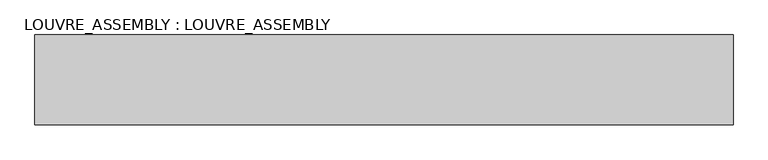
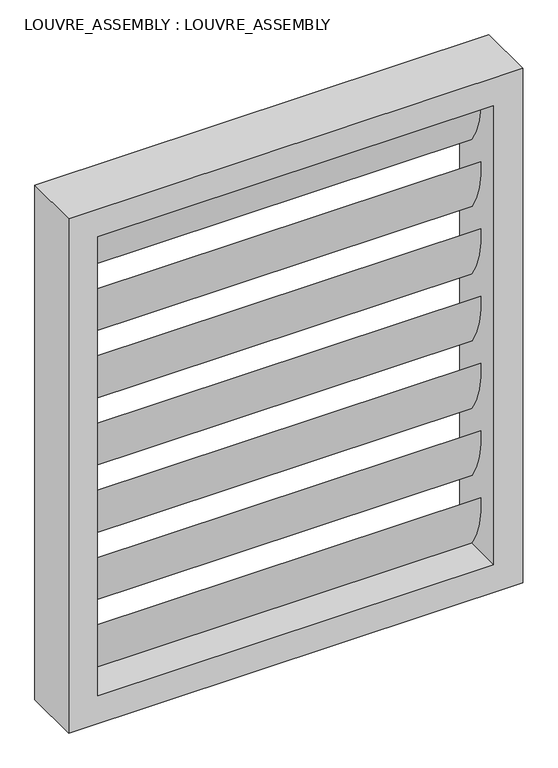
"""IFC4 building model written with IfcOpenShell, lengths in millimetres: plate geometry, LOUVRE_ASSEMBLY : LOUVRE_ASSEMBLY."""

from ifc_helpers import new_model, si_unit, point, frame, frame_2d, origin, place, context, project, spatial, circle_curve, trimmed, segment, composite_curve, outline, extrude, faceted_brep, source, transform, mapped, element, save


def louvre_assembly_louvre_assembly_8bc7d318(model_context):
    return source(origin(), model_context, "Body", "SolidModel", [
        extrude(outline(composite_curve([segment(trimmed(circle_curve(frame_2d((202.8444235, 386.8519995)), 222.9910312), [point((19.4114284, 260.055563))], [point((-19.4114284, 404.944437))], False, "CARTESIAN"), True, "CONTINUOUS"), segment(trimmed(circle_curve(frame_2d((-202.8444235, 278.1480005)), 222.9910312), [point((-19.4114284, 404.944437))], [point((19.4114284, 260.055563))], False, "CARTESIAN"), True, "CONTINUOUS")], self_intersect=False)), frame((-507.3428515, 0.0, 0.0), z_axis=(1.0, 0.0, 0.0), x_axis=(0.0, 1.0, 0.0)), (0.0, 0.0, 1.0), 1014.685703),
        extrude(outline(composite_curve([segment(trimmed(circle_curve(frame_2d((202.8444235, 569.3519995)), 222.9910312), [point((19.4114284, 442.555563))], [point((-19.4114284, 587.444437))], False, "CARTESIAN"), True, "CONTINUOUS"), segment(trimmed(circle_curve(frame_2d((-202.8444235, 460.6480005)), 222.9910312), [point((-19.4114284, 587.444437))], [point((19.4114284, 442.555563))], False, "CARTESIAN"), True, "CONTINUOUS")], self_intersect=False)), frame((-507.3428515, 0.0, 0.0), z_axis=(1.0, 0.0, 0.0), x_axis=(0.0, 1.0, 0.0)), (0.0, 0.0, 1.0), 1014.685703),
        extrude(outline(composite_curve([segment(trimmed(circle_curve(frame_2d((202.8444235, 751.8519995)), 222.9910312), [point((19.4114284, 625.055563))], [point((-19.4114284, 769.944437))], False, "CARTESIAN"), True, "CONTINUOUS"), segment(trimmed(circle_curve(frame_2d((-202.8444235, 643.1480005)), 222.9910312), [point((-19.4114284, 769.944437))], [point((19.4114284, 625.055563))], False, "CARTESIAN"), True, "CONTINUOUS")], self_intersect=False)), frame((-507.3428515, 0.0, 0.0), z_axis=(1.0, 0.0, 0.0), x_axis=(0.0, 1.0, 0.0)), (0.0, 0.0, 1.0), 1014.685703),
        extrude(outline(composite_curve([segment(trimmed(circle_curve(frame_2d((202.8444235, 934.3519995)), 222.9910312), [point((19.4114284, 807.555563))], [point((-19.4114284, 952.444437))], False, "CARTESIAN"), True, "CONTINUOUS"), segment(trimmed(circle_curve(frame_2d((-202.8444235, 825.6480005)), 222.9910312), [point((-19.4114284, 952.444437))], [point((19.4114284, 807.555563))], False, "CARTESIAN"), True, "CONTINUOUS")], self_intersect=False)), frame((-507.3428515, 0.0, 0.0), z_axis=(1.0, 0.0, 0.0), x_axis=(0.0, 1.0, 0.0)), (0.0, 0.0, 1.0), 1014.685703),
        extrude(outline(composite_curve([segment(trimmed(circle_curve(frame_2d((202.8444235, 1116.8519995)), 222.9910312), [point((19.4114284, 990.055563))], [point((-19.4114284, 1134.944437))], False, "CARTESIAN"), True, "CONTINUOUS"), segment(trimmed(circle_curve(frame_2d((-202.8444235, 1008.1480005)), 222.9910312), [point((-19.4114284, 1134.944437))], [point((19.4114284, 990.055563))], False, "CARTESIAN"), True, "CONTINUOUS")], self_intersect=False)), frame((-507.3428515, 0.0, 0.0), z_axis=(1.0, 0.0, 0.0), x_axis=(0.0, 1.0, 0.0)), (0.0, 0.0, 1.0), 1014.685703),
        extrude(outline(composite_curve([segment(trimmed(circle_curve(frame_2d((202.8444235, 204.3519995)), 222.9910312), [point((19.4114284, 77.555563))], [point((-19.4114284, 222.444437))], False, "CARTESIAN"), True, "CONTINUOUS"), segment(trimmed(circle_curve(frame_2d((-202.8444235, 95.6480005)), 222.9910312), [point((-19.4114284, 222.444437))], [point((19.4114284, 77.555563))], False, "CARTESIAN"), True, "CONTINUOUS")], self_intersect=False)), frame((-507.3428515, 0.0, 0.0), z_axis=(1.0, 0.0, 0.0), x_axis=(0.0, 1.0, 0.0)), (0.0, 0.0, 1.0), 1014.685703),
        extrude(outline(composite_curve([segment(trimmed(circle_curve(frame_2d((202.8444235, 1299.3519995)), 222.9910312), [point((19.4114284, 1172.555563))], [point((-19.4114284, 1317.444437))], False, "CARTESIAN"), True, "CONTINUOUS"), segment(trimmed(circle_curve(frame_2d((-202.8444235, 1190.6480005)), 222.9910312), [point((-19.4114284, 1317.444437))], [point((19.4114284, 1172.555563))], False, "CARTESIAN"), True, "CONTINUOUS")], self_intersect=False)), frame((-507.3428515, 0.0, 0.0), z_axis=(1.0, 0.0, 0.0), x_axis=(0.0, 1.0, 0.0)), (0.0, 0.0, 1.0), 1014.685703),
        faceted_brep([(-582.3428515, -75.0, 1395.0), (-582.3428515, 75.0, 1395.0), (-582.3428515, 75.0, 0.0), (-582.3428515, -75.0, 0.0), (-576.7178515, 75.0, 1389.375), (-576.7178515, -69.375, 1389.375), (-576.7178515, -69.375, 5.625), (-576.7178515, 75.0, 5.625), (-512.9678515, -69.375, 1325.625), (-512.9678515, 75.0, 1325.625), (-512.9678515, 75.0, 69.375), (-512.9678515, -69.375, 69.375), (-507.3428515, 75.0, 1320.0), (-507.3428515, -75.0, 1320.0), (-507.3428515, -75.0, 75.0), (-507.3428515, 75.0, 75.0), (582.3428515, 75.0, 0.0), (582.3428515, -75.0, 0.0), (576.7178515, -69.375, 5.625), (576.7178515, 75.0, 5.625), (512.9678515, 75.0, 69.375), (512.9678515, -69.375, 69.375), (507.3428515, -75.0, 75.0), (507.3428515, 75.0, 75.0), (582.3428515, 75.0, 1395.0), (582.3428515, -75.0, 1395.0), (576.7178515, -69.375, 1389.375), (576.7178515, 75.0, 1389.375), (512.9678515, 75.0, 1325.625), (512.9678515, -69.375, 1325.625), (507.3428515, -75.0, 1320.0), (507.3428515, 75.0, 1320.0)], [[[0, 1, 2, 3]], [[4, 5, 6, 7]], [[8, 9, 10, 11]], [[12, 13, 14, 15]], [[3, 2, 16, 17]], [[7, 6, 18, 19]], [[11, 10, 20, 21]], [[15, 14, 22, 23]], [[17, 16, 24, 25]], [[19, 18, 26, 27]], [[21, 20, 28, 29]], [[23, 22, 30, 31]], [[25, 24, 1, 0]], [[27, 26, 5, 4]], [[29, 28, 9, 8]], [[31, 30, 13, 12]], [[3, 17, 25, 0], [13, 30, 22, 14]], [[9, 28, 20, 10], [15, 23, 31, 12]], [[5, 26, 18, 6], [11, 21, 29, 8]], [[1, 24, 16, 2], [7, 19, 27, 4]]]),
    ])


if __name__ == "__main__":
    model = new_model("IFC4")
    model_context = context("Model", 3, world=origin())
    ifc_project = project(units=[si_unit("LENGTHUNIT", "METRE", prefix="MILLI")], contexts=[model_context])
    site = spatial("IfcSite", under=ifc_project)
    building = spatial("IfcBuilding", under=site)
    placement = place(None, origin())
    louvre_assembly_louvre_assembly_shape = louvre_assembly_louvre_assembly_8bc7d318(model_context)
    element("IfcPlate", 1, ObjectType="LOUVRE_ASSEMBLY : LOUVRE_ASSEMBLY", at=placement, inside=building, context=model_context, shape_type="MappedRepresentation", body=[
        mapped(louvre_assembly_louvre_assembly_shape, transform((0.0, 0.0, 0.0), x_axis=(1.0, 0.0, 0.0), y_axis=(0.0, 1.0, 0.0), z_axis=(0.0, 0.0, 1.0))),
    ])
    save(model, "model.ifc")
